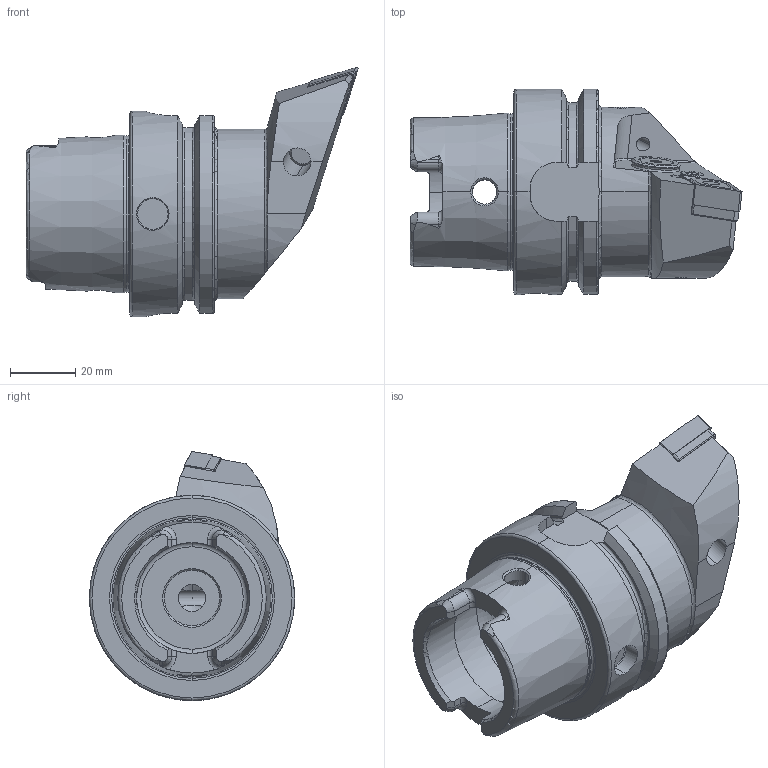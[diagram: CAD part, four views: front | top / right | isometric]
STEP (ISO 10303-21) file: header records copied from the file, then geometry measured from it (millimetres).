
FILE_DESCRIPTION (( 'STEP AP214' ), '1' );
FILE_NAME ('HA6.PDF.LHA.070-HP.STEP', '2020-09-17T07:18:13', ( '' ), ( '' ), 'SwSTEP 2.0', 'SolidWorks 2017', '' );
FILE_SCHEMA (( 'AUTOMOTIVE_DESIGN' ));
Length unit declared in the file: millimetre
Products named in the file (13): DIN 7991 - M5x15; ISO 8752 2x8; WCD-ER4.101.017_A; WDF-ER3.101.000_A; HA6.PDF.LHA.070-HP; HA6-PDF.LHA.070-HP_A; WDF-ER2.101.003_A; CHP-ER1.015.006; DNMG150604; CHP-ER1.015.006_A; WCD-ER1.101.000; CHP-ER1.008.014_A; DIN 3771 - 13x1
Assembly tree (12 placements, depth 3):
  HA6.PDF.LHA.070-HP
    HA6-PDF.LHA.070-HP_A
    DNMG150604
    WDF-ER3.101.000_A
    WCD-ER1.101.000
    WCD-ER4.101.017_A
    WDF-ER2.101.003_A
    CHP-ER1.008.014_A
    ISO 8752 2x8
    CHP-ER1.015.006
      CHP-ER1.015.006_A
      DIN 3771 - 13x1
      DIN 7991 - M5x15
Bounding box: 101.9 x 63 x 76.5 mm (x, y, z)
Volume: 136970.2 mm3; surface area: 35166.9 mm2
Topology: 11 solids, 11 shells, 496 faces, 1237 edges, 750 vertices
Faces by surface type: plane 158, cylinder 132, cone 124, torus 58, bspline 24
Entity records: 18110 total; most frequent: CARTESIAN_POINT 5501, ORIENTED_EDGE 2434, DIRECTION 2346, EDGE_CURVE 1217, AXIS2_PLACEMENT_3D 922, VERTEX_POINT 750, EDGE_LOOP 525, VECTOR 502
